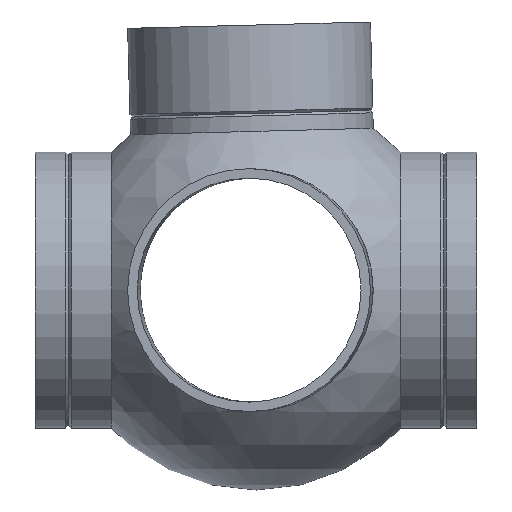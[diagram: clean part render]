
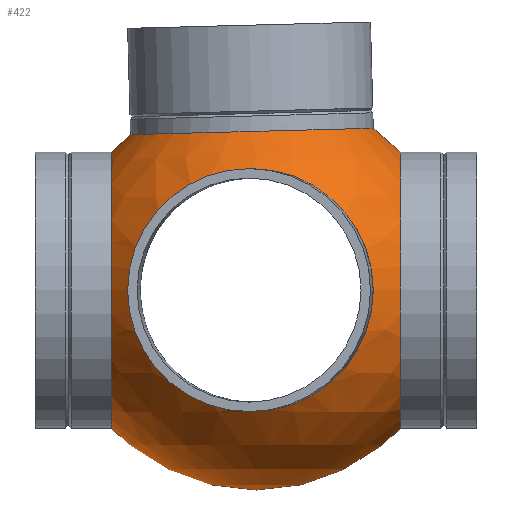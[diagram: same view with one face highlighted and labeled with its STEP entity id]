
A CAD part, left-side view. The second image highlights one B-rep face of the part: STEP entity #422.
In plain terms, the highlighted spherical face has radius 90.5 mm.
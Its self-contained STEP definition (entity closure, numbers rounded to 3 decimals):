
#13=SPHERICAL_SURFACE($,#492,90.5);
#72=FACE_BOUND($,#167,.T.);
#73=FACE_BOUND($,#168,.T.);
#74=FACE_BOUND($,#169,.T.);
#75=FACE_BOUND($,#170,.T.);
#76=FACE_BOUND($,#171,.T.);
#167=EDGE_LOOP($,(#342));
#168=EDGE_LOOP($,(#343));
#169=EDGE_LOOP($,(#344));
#170=EDGE_LOOP($,(#345));
#171=EDGE_LOOP($,(#346));
#184=CIRCLE($,#444,55.);
#185=CIRCLE($,#446,55.);
#191=CIRCLE($,#459,55.);
#203=CIRCLE($,#481,62.5);
#208=CIRCLE($,#491,62.5);
#219=VERTEX_POINT($,#658);
#220=VERTEX_POINT($,#661);
#226=VERTEX_POINT($,#680);
#238=VERTEX_POINT($,#714);
#243=VERTEX_POINT($,#729);
#254=EDGE_CURVE($,#219,#219,#184,.T.);
#255=EDGE_CURVE($,#220,#220,#185,.T.);
#261=EDGE_CURVE($,#226,#226,#191,.T.);
#273=EDGE_CURVE($,#238,#238,#203,.T.);
#278=EDGE_CURVE($,#243,#243,#208,.T.);
#342=ORIENTED_EDGE($,*,*,#254,.T.);
#343=ORIENTED_EDGE($,*,*,#255,.T.);
#344=ORIENTED_EDGE($,*,*,#261,.T.);
#345=ORIENTED_EDGE($,*,*,#273,.T.);
#346=ORIENTED_EDGE($,*,*,#278,.T.);
#422=ADVANCED_FACE($,(#72,#73,#74,#75,#76),#13,.T.);
#444=AXIS2_PLACEMENT_3D($,#659,#530,#531);
#446=AXIS2_PLACEMENT_3D($,#662,#534,#535);
#459=AXIS2_PLACEMENT_3D($,#681,#560,#561);
#481=AXIS2_PLACEMENT_3D($,#715,#604,#605);
#491=AXIS2_PLACEMENT_3D($,#730,#624,#625);
#492=AXIS2_PLACEMENT_3D($,#731,#626,#627);
#530=DIRECTION('center_axis',(-1.,-0.026,0.));
#531=DIRECTION('ref_axis',(0.,0.,
1.));
#534=DIRECTION('center_axis',(0.,-0.026,
-1.));
#535=DIRECTION('ref_axis',(-1.,0.,0.));
#560=DIRECTION('center_axis',(1.,-0.026,0.));
#561=DIRECTION('ref_axis',(0.,0.,
-1.));
#604=DIRECTION('center_axis',(0.,1.,0.));
#605=DIRECTION('ref_axis',(1.,0.,0.));
#624=DIRECTION('center_axis',(0.,-1.,0.));
#625=DIRECTION('ref_axis',(1.,0.,0.));
#626=DIRECTION('center_axis',(0.,0.,1.));
#627=DIRECTION('ref_axis',(1.,0.,0.));
#658=CARTESIAN_POINT('',(71.845,1.881,-55.));
#659=CARTESIAN_POINT('Origin',(71.845,1.881,0.));
#661=CARTESIAN_POINT('',(55.,1.881,71.845));
#662=CARTESIAN_POINT('Origin',(0.,1.881,
71.845));
#680=CARTESIAN_POINT('',(-71.845,1.881,55.));
#681=CARTESIAN_POINT('Origin',(-71.845,1.881,0.));
#714=CARTESIAN_POINT('',(-62.5,-65.452,0.));
#715=CARTESIAN_POINT('Origin',(0.,-65.452,0.));
#729=CARTESIAN_POINT('',(-62.5,65.452,0.));
#730=CARTESIAN_POINT('Origin',(0.,65.452,0.));
#731=CARTESIAN_POINT('Origin',(0.,0.,0.));
